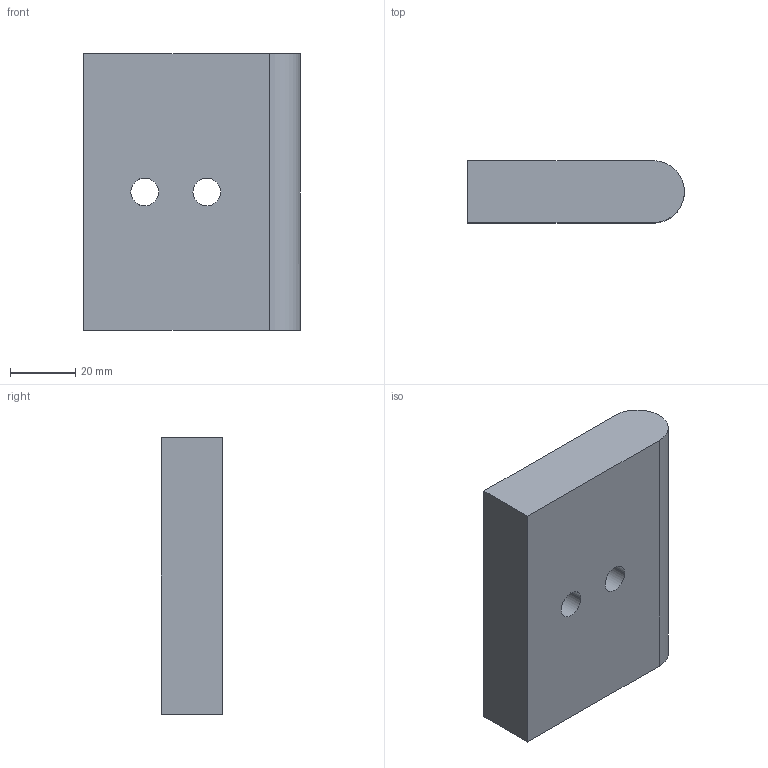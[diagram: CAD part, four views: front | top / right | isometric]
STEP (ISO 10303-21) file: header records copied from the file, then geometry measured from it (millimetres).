
FILE_DESCRIPTION(('CATIA V5 STEP Exchange'),'2;1');
FILE_NAME('X:\CODICI MOVEX\3D per clienti\3D definitivi\Part 200\P22801_01.stp','2016-09-28T13:30:46+00:00',('none'),('none'),'Version 5-6 Release 2012','CATIA V5 STEP AP203','none');
FILE_SCHEMA(('CONFIG_CONTROL_DESIGN'));
Length unit declared in the file: millimetre
Products named in the file (1): P22801_01
Bounding box: 66.5 x 19 x 84.8 mm (x, y, z)
Volume: 100562.3 mm3; surface area: 16986.6 mm2
Topology: 1 solids, 1 shells, 18 faces, 44 edges, 28 vertices
Faces by surface type: cylinder 9, plane 5, cone 4
Entity records: 580 total; most frequent: CARTESIAN_POINT 111, ORIENTED_EDGE 88, DIRECTION 77, EDGE_CURVE 44, AXIS2_PLACEMENT_3D 38, VERTEX_POINT 28, VECTOR 22, EDGE_LOOP 22
